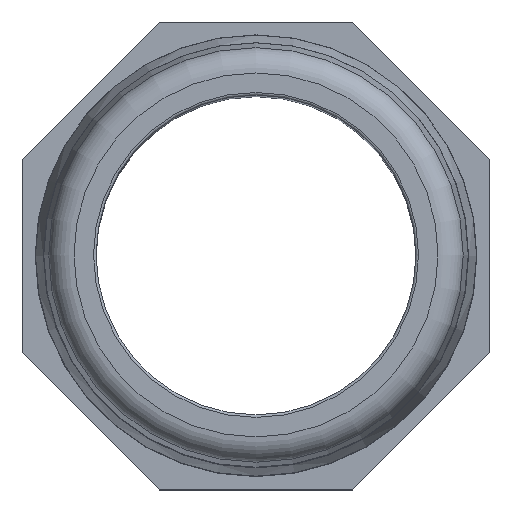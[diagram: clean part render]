
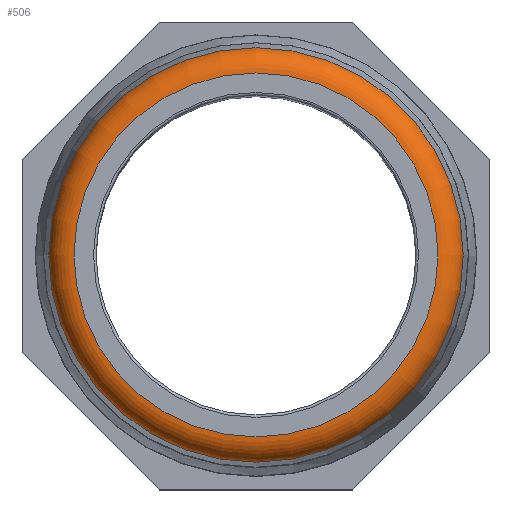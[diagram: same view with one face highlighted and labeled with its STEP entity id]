
A CAD part, top view. The second image highlights one B-rep face of the part: STEP entity #506.
In plain terms, the highlighted toroidal (fillet/blend) face has major radius 21.398 mm and minor radius 3 mm.
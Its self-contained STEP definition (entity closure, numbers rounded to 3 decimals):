
#115=FACE_BOUND('',#212,.T.);
#146=FACE_OUTER_BOUND('',#211,.T.);
#211=EDGE_LOOP('',(#411));
#212=EDGE_LOOP('',(#412));
#254=CIRCLE('',#570,21.398);
#256=CIRCLE('',#574,24.368);
#284=VERTEX_POINT('',#829);
#286=VERTEX_POINT('',#835);
#330=EDGE_CURVE('',#284,#284,#254,.T.);
#332=EDGE_CURVE('',#286,#286,#256,.T.);
#411=ORIENTED_EDGE('',*,*,#332,.T.);
#412=ORIENTED_EDGE('',*,*,#330,.T.);
#479=TOROIDAL_SURFACE('',#575,21.398,3.);
#506=ADVANCED_FACE('',(#146,#115),#479,.T.);
#570=AXIS2_PLACEMENT_3D('',#830,#690,#691);
#574=AXIS2_PLACEMENT_3D('',#836,#698,#699);
#575=AXIS2_PLACEMENT_3D('',#837,#700,#701);
#690=DIRECTION('center_axis',(0.,0.,-1.));
#691=DIRECTION('ref_axis',(-1.,0.,0.));
#698=DIRECTION('center_axis',(0.,0.,
1.));
#699=DIRECTION('ref_axis',(-1.,0.,0.));
#700=DIRECTION('center_axis',(0.,0.,1.));
#701=DIRECTION('ref_axis',(1.,0.,0.));
#829=CARTESIAN_POINT('',(21.398,0.,109.));
#830=CARTESIAN_POINT('Origin',(0.,0.,109.));
#835=CARTESIAN_POINT('',(24.368,0.,106.424));
#836=CARTESIAN_POINT('Origin',(0.,0.,
106.424));
#837=CARTESIAN_POINT('Origin',(0.,0.,106.));
